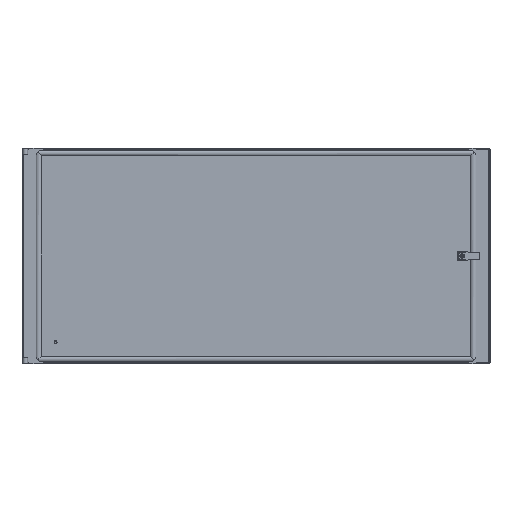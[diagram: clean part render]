
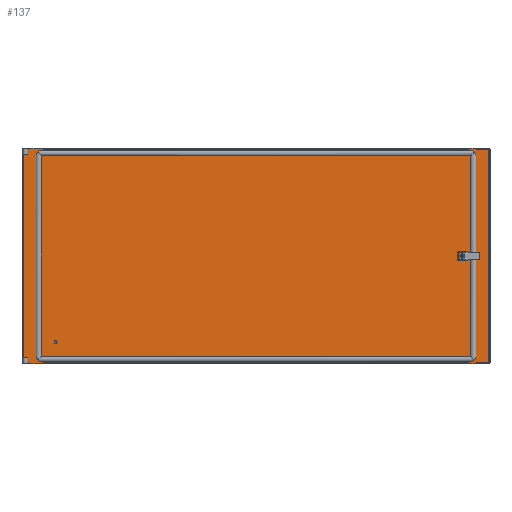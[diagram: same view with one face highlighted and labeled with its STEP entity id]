
A CAD part, top view. The second image highlights one B-rep face of the part: STEP entity #137.
In plain terms, the highlighted planar face has unit normal (0, 0, 1).
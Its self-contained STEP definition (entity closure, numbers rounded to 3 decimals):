
#137=ADVANCED_FACE('',(#702,#704,#706),#708,.T.);
#702=FACE_BOUND('',#703,.T.);
#703=EDGE_LOOP('',(#3435,#3436,#3437,#3438,#3439,#3440,#3441,#3442,#3443,#3444,#3445,
#3446,#3447,#3448,#3449,#3450,#3451,#3452,#3453,#3454,#3455,#3456,#3457,#3458,#3459,
#3460,#3461,#3462));
#704=FACE_BOUND('',#705,.T.);
#705=EDGE_LOOP('',(#3463));
#706=FACE_BOUND('',#707,.T.);
#707=EDGE_LOOP('',(#3464,#3465,#3466,#3467));
#708=PLANE('',#709);
#709=AXIS2_PLACEMENT_3D('',#710,#711,#712);
#710=CARTESIAN_POINT('',(0.,0.,2.));
#711=DIRECTION('',(0.,0.,1.));
#712=DIRECTION('',(1.,0.,0.));
#3435=ORIENTED_EDGE('',*,*,#5245,.F.);
#3436=ORIENTED_EDGE('',*,*,#5225,.F.);
#3437=ORIENTED_EDGE('',*,*,#5152,.F.);
#3438=ORIENTED_EDGE('',*,*,#5246,.F.);
#3439=ORIENTED_EDGE('',*,*,#5247,.F.);
#3440=ORIENTED_EDGE('',*,*,#5248,.F.);
#3441=ORIENTED_EDGE('',*,*,#5249,.F.);
#3442=ORIENTED_EDGE('',*,*,#5221,.F.);
#3443=ORIENTED_EDGE('',*,*,#5156,.F.);
#3444=ORIENTED_EDGE('',*,*,#5250,.F.);
#3445=ORIENTED_EDGE('',*,*,#5251,.F.);
#3446=ORIENTED_EDGE('',*,*,#5252,.F.);
#3447=ORIENTED_EDGE('',*,*,#5253,.F.);
#3448=ORIENTED_EDGE('',*,*,#5254,.F.);
#3449=ORIENTED_EDGE('',*,*,#5255,.F.);
#3450=ORIENTED_EDGE('',*,*,#5176,.F.);
#3451=ORIENTED_EDGE('',*,*,#5149,.F.);
#3452=ORIENTED_EDGE('',*,*,#5256,.T.);
#3453=ORIENTED_EDGE('',*,*,#5257,.T.);
#3454=ORIENTED_EDGE('',*,*,#5258,.T.);
#3455=ORIENTED_EDGE('',*,*,#5143,.F.);
#3456=ORIENTED_EDGE('',*,*,#5174,.F.);
#3457=ORIENTED_EDGE('',*,*,#5141,.F.);
#3458=ORIENTED_EDGE('',*,*,#5259,.T.);
#3459=ORIENTED_EDGE('',*,*,#5260,.T.);
#3460=ORIENTED_EDGE('',*,*,#5261,.T.);
#3461=ORIENTED_EDGE('',*,*,#5135,.F.);
#3462=ORIENTED_EDGE('',*,*,#5182,.F.);
#3463=ORIENTED_EDGE('',*,*,#5133,.F.);
#3464=ORIENTED_EDGE('',*,*,#5262,.F.);
#3465=ORIENTED_EDGE('',*,*,#5263,.F.);
#3466=ORIENTED_EDGE('',*,*,#5264,.F.);
#3467=ORIENTED_EDGE('',*,*,#5265,.F.);
#5133=EDGE_CURVE('',#6052,#6052,#6053,.T.);
#5135=EDGE_CURVE('',#6056,#6057,#6058,.T.);
#5141=EDGE_CURVE('',#6067,#6069,#6070,.T.);
#5143=EDGE_CURVE('',#6072,#6073,#6074,.T.);
#5149=EDGE_CURVE('',#6083,#6085,#6086,.T.);
#5152=EDGE_CURVE('',#6088,#6091,#6092,.T.);
#5156=EDGE_CURVE('',#6096,#6099,#6100,.T.);
#5174=EDGE_CURVE('',#6069,#6072,#6129,.T.);
#5176=EDGE_CURVE('',#6085,#6132,#6133,.T.);
#5182=EDGE_CURVE('',#6141,#6056,#6143,.T.);
#5221=EDGE_CURVE('',#6099,#6206,#6207,.T.);
#5225=EDGE_CURVE('',#6091,#6213,#6214,.T.);
#5245=EDGE_CURVE('',#6213,#6141,#6244,.T.);
#5246=EDGE_CURVE('',#6245,#6088,#6246,.T.);
#5247=EDGE_CURVE('',#6247,#6245,#6248,.T.);
#5248=EDGE_CURVE('',#6249,#6247,#6250,.T.);
#5249=EDGE_CURVE('',#6206,#6249,#6251,.T.);
#5250=EDGE_CURVE('',#6252,#6096,#6253,.T.);
#5251=EDGE_CURVE('',#6254,#6252,#6255,.T.);
#5252=EDGE_CURVE('',#6256,#6254,#6257,.T.);
#5253=EDGE_CURVE('',#6258,#6256,#6259,.T.);
#5254=EDGE_CURVE('',#6260,#6258,#6261,.T.);
#5255=EDGE_CURVE('',#6132,#6260,#6262,.T.);
#5256=EDGE_CURVE('',#6083,#6263,#6264,.T.);
#5257=EDGE_CURVE('',#6263,#6265,#6266,.T.);
#5258=EDGE_CURVE('',#6265,#6073,#6267,.T.);
#5259=EDGE_CURVE('',#6067,#6268,#6269,.T.);
#5260=EDGE_CURVE('',#6268,#6270,#6271,.T.);
#5261=EDGE_CURVE('',#6270,#6057,#6272,.T.);
#5262=EDGE_CURVE('',#6273,#6274,#6275,.T.);
#5263=EDGE_CURVE('',#6276,#6273,#6277,.T.);
#5264=EDGE_CURVE('',#6278,#6276,#6279,.T.);
#5265=EDGE_CURVE('',#6274,#6278,#6280,.T.);
#6052=VERTEX_POINT('',#7567);
#6053=CIRCLE('',#7568,0.5);
#6056=VERTEX_POINT('',#7577);
#6057=VERTEX_POINT('',#7578);
#6058=LINE('',#7579,#7580);
#6067=VERTEX_POINT('',#7598);
#6069=VERTEX_POINT('',#7602);
#6070=LINE('',#7603,#7604);
#6072=VERTEX_POINT('',#7609);
#6073=VERTEX_POINT('',#7610);
#6074=LINE('',#7611,#7612);
#6083=VERTEX_POINT('',#7630);
#6085=VERTEX_POINT('',#7634);
#6086=LINE('',#7635,#7636);
#6088=VERTEX_POINT('',#7641);
#6091=VERTEX_POINT('',#7646);
#6092=LINE('',#7647,#7648);
#6096=VERTEX_POINT('',#7657);
#6099=VERTEX_POINT('',#7662);
#6100=LINE('',#7663,#7664);
#6129=LINE('',#7762,#7763);
#6132=VERTEX_POINT('',#7770);
#6133=LINE('',#7771,#7772);
#6141=VERTEX_POINT('',#7803);
#6143=LINE('',#7820,#7821);
#6206=VERTEX_POINT('',#7979);
#6207=LINE('',#7980,#7981);
#6213=VERTEX_POINT('',#7996);
#6214=LINE('',#7997,#7998);
#6244=LINE('',#8080,#8081);
#6245=VERTEX_POINT('',#8083);
#6246=LINE('',#8084,#8085);
#6247=VERTEX_POINT('',#8087);
#6248=LINE('',#8088,#8089);
#6249=VERTEX_POINT('',#8091);
#6250=LINE('',#8092,#8093);
#6251=LINE('',#8095,#8096);
#6252=VERTEX_POINT('',#8098);
#6253=LINE('',#8099,#8100);
#6254=VERTEX_POINT('',#8102);
#6255=LINE('',#8103,#8104);
#6256=VERTEX_POINT('',#8106);
#6257=LINE('',#8107,#8108);
#6258=VERTEX_POINT('',#8110);
#6259=LINE('',#8111,#8112);
#6260=VERTEX_POINT('',#8114);
#6261=LINE('',#8115,#8116);
#6262=LINE('',#8118,#8119);
#6263=VERTEX_POINT('',#8121);
#6264=LINE('',#8122,#8123);
#6265=VERTEX_POINT('',#8125);
#6266=LINE('',#8126,#8127);
#6267=LINE('',#8129,#8130);
#6268=VERTEX_POINT('',#8132);
#6269=LINE('',#8133,#8134);
#6270=VERTEX_POINT('',#8136);
#6271=LINE('',#8137,#8138);
#6272=LINE('',#8140,#8141);
#6273=VERTEX_POINT('',#8143);
#6274=VERTEX_POINT('',#8144);
#6275=LINE('',#8145,#8146);
#6276=VERTEX_POINT('',#8148);
#6277=LINE('',#8149,#8150);
#6278=VERTEX_POINT('',#8152);
#6279=LINE('',#8153,#8154);
#6280=LINE('',#8156,#8157);
#7567=CARTESIAN_POINT('',(-507.7,-218.5,2.));
#7568=AXIS2_PLACEMENT_3D('',#7569,#7570,#7571);
#7569=CARTESIAN_POINT('',(-508.2,-218.5,2.));
#7570=DIRECTION('',(0.,0.,1.));
#7571=DIRECTION('',(-1.,0.,0.));
#7577=CARTESIAN_POINT('',(560.7,-270.1,2.));
#7578=CARTESIAN_POINT('',(558.7,-270.1,2.));
#7579=CARTESIAN_POINT('',(560.7,-270.1,2.));
#7580=VECTOR('',#7581,1.);
#7581=DIRECTION('',(-1.,0.,0.));
#7598=CARTESIAN_POINT('',(539.2,-270.1,2.));
#7602=CARTESIAN_POINT('',(537.2,-270.1,2.));
#7603=CARTESIAN_POINT('',(539.2,-270.1,2.));
#7604=VECTOR('',#7605,1.);
#7605=DIRECTION('',(-1.,0.,0.));
#7609=CARTESIAN_POINT('',(-536.2,-270.1,2.));
#7610=CARTESIAN_POINT('',(-538.2,-270.1,2.));
#7611=CARTESIAN_POINT('',(-536.2,-270.1,2.));
#7612=VECTOR('',#7613,1.);
#7613=DIRECTION('',(-1.,0.,0.));
#7630=CARTESIAN_POINT('',(-576.2,-270.1,2.));
#7634=CARTESIAN_POINT('',(-578.2,-270.1,2.));
#7635=CARTESIAN_POINT('',(-576.2,-270.1,2.));
#7636=VECTOR('',#7637,1.);
#7637=DIRECTION('',(-1.,0.,0.));
#7641=CARTESIAN_POINT('',(558.7,270.1,2.));
#7646=CARTESIAN_POINT('',(560.7,270.1,2.));
#7647=CARTESIAN_POINT('',(558.7,270.1,2.));
#7648=VECTOR('',#7649,1.);
#7649=DIRECTION('',(1.,0.,0.));
#7657=CARTESIAN_POINT('',(-538.2,270.1,2.));
#7662=CARTESIAN_POINT('',(-536.2,270.1,2.));
#7663=CARTESIAN_POINT('',(-538.2,270.1,2.));
#7664=VECTOR('',#7665,1.);
#7665=DIRECTION('',(1.,0.,0.));
#7762=CARTESIAN_POINT('',(537.2,-270.1,2.));
#7763=VECTOR('',#7764,1.);
#7764=DIRECTION('',(-1.,0.,0.));
#7770=CARTESIAN_POINT('',(-589.8,-270.1,2.));
#7771=CARTESIAN_POINT('',(-578.2,-270.1,2.));
#7772=VECTOR('',#7773,1.);
#7773=DIRECTION('',(-1.,0.,0.));
#7803=CARTESIAN_POINT('',(589.8,-270.1,2.));
#7820=CARTESIAN_POINT('',(589.8,-270.1,2.));
#7821=VECTOR('',#7822,1.);
#7822=DIRECTION('',(-1.,0.,0.));
#7979=CARTESIAN_POINT('',(537.2,270.1,2.));
#7980=CARTESIAN_POINT('',(-536.2,270.1,2.));
#7981=VECTOR('',#7982,1.);
#7982=DIRECTION('',(1.,0.,0.));
#7996=CARTESIAN_POINT('',(589.8,270.1,2.));
#7997=CARTESIAN_POINT('',(560.7,270.1,2.));
#7998=VECTOR('',#7999,1.);
#7999=DIRECTION('',(1.,0.,0.));
#8080=CARTESIAN_POINT('',(589.8,270.1,2.));
#8081=VECTOR('',#8082,1.);
#8082=DIRECTION('',(0.,-1.,0.));
#8083=CARTESIAN_POINT('',(558.7,273.5,2.));
#8084=CARTESIAN_POINT('',(558.7,273.5,2.));
#8085=VECTOR('',#8086,1.);
#8086=DIRECTION('',(0.,-1.,0.));
#8087=CARTESIAN_POINT('',(539.2,273.5,2.));
#8088=CARTESIAN_POINT('',(539.2,273.5,2.));
#8089=VECTOR('',#8090,1.);
#8090=DIRECTION('',(1.,0.,0.));
#8091=CARTESIAN_POINT('',(539.2,270.1,2.));
#8092=CARTESIAN_POINT('',(539.2,270.1,2.));
#8093=VECTOR('',#8094,1.);
#8094=DIRECTION('',(0.,1.,0.));
#8095=CARTESIAN_POINT('',(537.2,270.1,2.));
#8096=VECTOR('',#8097,1.);
#8097=DIRECTION('',(1.,0.,0.));
#8098=CARTESIAN_POINT('',(-538.2,273.5,2.));
#8099=CARTESIAN_POINT('',(-538.2,273.5,2.));
#8100=VECTOR('',#8101,1.);
#8101=DIRECTION('',(0.,-1.,0.));
#8102=CARTESIAN_POINT('',(-576.2,273.5,2.));
#8103=CARTESIAN_POINT('',(-576.2,273.5,2.));
#8104=VECTOR('',#8105,1.);
#8105=DIRECTION('',(1.,0.,0.));
#8106=CARTESIAN_POINT('',(-576.2,270.1,2.));
#8107=CARTESIAN_POINT('',(-576.2,270.1,2.));
#8108=VECTOR('',#8109,1.);
#8109=DIRECTION('',(0.,1.,0.));
#8110=CARTESIAN_POINT('',(-578.2,270.1,2.));
#8111=CARTESIAN_POINT('',(-578.2,270.1,2.));
#8112=VECTOR('',#8113,1.);
#8113=DIRECTION('',(1.,0.,0.));
#8114=CARTESIAN_POINT('',(-589.8,270.1,2.));
#8115=CARTESIAN_POINT('',(-589.8,270.1,2.));
#8116=VECTOR('',#8117,1.);
#8117=DIRECTION('',(1.,0.,0.));
#8118=CARTESIAN_POINT('',(-589.8,-270.1,2.));
#8119=VECTOR('',#8120,1.);
#8120=DIRECTION('',(0.,1.,0.));
#8121=CARTESIAN_POINT('',(-576.2,-273.5,2.));
#8122=CARTESIAN_POINT('',(-576.2,-270.1,2.));
#8123=VECTOR('',#8124,1.);
#8124=DIRECTION('',(0.,-1.,0.));
#8125=CARTESIAN_POINT('',(-538.2,-273.5,2.));
#8126=CARTESIAN_POINT('',(-576.2,-273.5,2.));
#8127=VECTOR('',#8128,1.);
#8128=DIRECTION('',(1.,0.,0.));
#8129=CARTESIAN_POINT('',(-538.2,-273.5,2.));
#8130=VECTOR('',#8131,1.);
#8131=DIRECTION('',(0.,1.,0.));
#8132=CARTESIAN_POINT('',(539.2,-273.5,2.));
#8133=CARTESIAN_POINT('',(539.2,-270.1,2.));
#8134=VECTOR('',#8135,1.);
#8135=DIRECTION('',(0.,-1.,0.));
#8136=CARTESIAN_POINT('',(558.7,-273.5,2.));
#8137=CARTESIAN_POINT('',(539.2,-273.5,2.));
#8138=VECTOR('',#8139,1.);
#8139=DIRECTION('',(1.,0.,0.));
#8140=CARTESIAN_POINT('',(558.7,-273.5,2.));
#8141=VECTOR('',#8142,1.);
#8142=DIRECTION('',(0.,1.,0.));
#8143=CARTESIAN_POINT('',(533.2,-10.6,2.));
#8144=CARTESIAN_POINT('',(533.2,10.6,2.));
#8145=CARTESIAN_POINT('',(533.2,-10.6,2.));
#8146=VECTOR('',#8147,1.);
#8147=DIRECTION('',(0.,1.,0.));
#8148=CARTESIAN_POINT('',(512.,-10.6,2.));
#8149=CARTESIAN_POINT('',(512.,-10.6,2.));
#8150=VECTOR('',#8151,1.);
#8151=DIRECTION('',(1.,0.,0.));
#8152=CARTESIAN_POINT('',(512.,10.6,2.));
#8153=CARTESIAN_POINT('',(512.,10.6,2.));
#8154=VECTOR('',#8155,1.);
#8155=DIRECTION('',(0.,-1.,0.));
#8156=CARTESIAN_POINT('',(533.2,10.6,2.));
#8157=VECTOR('',#8158,1.);
#8158=DIRECTION('',(-1.,0.,0.));
